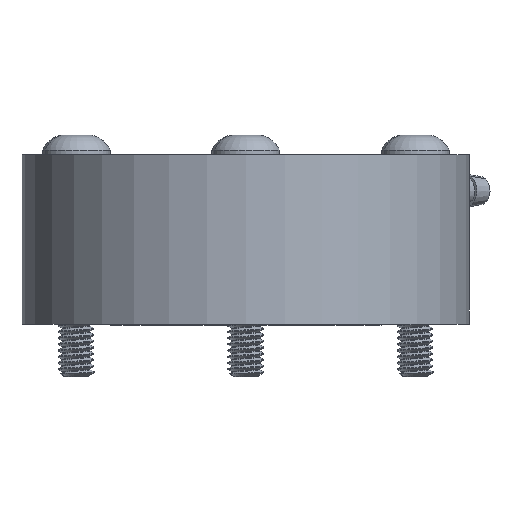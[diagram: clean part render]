
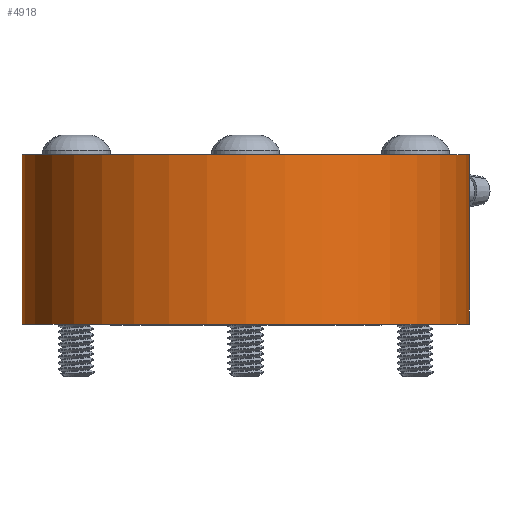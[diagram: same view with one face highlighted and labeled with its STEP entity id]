
A CAD part, front view. The second image highlights one B-rep face of the part: STEP entity #4918.
In plain terms, the highlighted cylindrical face has radius 25.146 mm (diameter 50.292 mm), a partial arc.
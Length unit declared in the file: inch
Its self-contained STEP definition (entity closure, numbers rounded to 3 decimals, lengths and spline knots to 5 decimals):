
#658 = DIRECTION ( 'NONE',  ( 0., 0., 1. ) ) ;
#1029 = DIRECTION ( 'NONE',  ( 1., 0., 0. ) ) ;
#1624 = CIRCLE ( 'NONE', #24684, 0.99 ) ;
#1824 = EDGE_LOOP ( 'NONE', ( #2473, #15691, #28398, #31041 ) ) ;
#2473 = ORIENTED_EDGE ( 'NONE', *, *, #29452, .F. ) ;
#4918 = ADVANCED_FACE ( 'Defeatured_711', ( #32721 ), #27931, .T. ) ;
#5583 = EDGE_CURVE ( 'Defeatured_711+Defeatured_713+Defeatured_713+Defeatured_713', #32514, #11179, #1624, .T. ) ;
#6512 = CARTESIAN_POINT ( 'NONE',  ( 0.99, 0., 0. ) ) ;
#6967 = AXIS2_PLACEMENT_3D ( 'NONE', #17669, #12297, #1029 ) ;
#10875 = CARTESIAN_POINT ( 'NONE',  ( 0.99, 0., 0.75 ) ) ;
#11179 = VERTEX_POINT ( 'NONE', #6512 ) ;
#11471 = DIRECTION ( 'NONE',  ( 0., 0., -1. ) ) ;
#12297 = DIRECTION ( 'NONE',  ( 0., 0., 1. ) ) ;
#14294 = LINE ( 'NONE', #10875, #19674 ) ;
#15691 = ORIENTED_EDGE ( 'NONE', *, *, #28639, .F. ) ;
#16227 = CARTESIAN_POINT ( 'NONE',  ( 0.99, 0., 0.75 ) ) ;
#17202 = CARTESIAN_POINT ( 'NONE',  ( 0., 0., 0.75 ) ) ;
#17669 = CARTESIAN_POINT ( 'NONE',  ( 0., 0., 0.75 ) ) ;
#18834 = CARTESIAN_POINT ( 'NONE',  ( -0.99, 0., 0. ) ) ;
#19674 = VECTOR ( 'NONE', #22796, 39.37008 ) ;
#20302 = VERTEX_POINT ( 'NONE', #16227 ) ;
#20319 = DIRECTION ( 'NONE',  ( -1., 0., 0. ) ) ;
#22796 = DIRECTION ( 'NONE',  ( 0., 0., -1. ) ) ;
#23973 = AXIS2_PLACEMENT_3D ( 'NONE', #17202, #11471, #20319 ) ;
#24684 = AXIS2_PLACEMENT_3D ( 'NONE', #25882, #658, #28744 ) ;
#25882 = CARTESIAN_POINT ( 'NONE',  ( 0., 0., 0. ) ) ;
#26691 = VERTEX_POINT ( 'NONE', #36765 ) ;
#27931 = CYLINDRICAL_SURFACE ( 'NONE', #23973, 0.99 ) ;
#28398 = ORIENTED_EDGE ( 'NONE', *, *, #34386, .T. ) ;
#28639 = EDGE_CURVE ( 'Defeatured_712+Defeatured_711+Defeatured_711+Defeatured_711', #26691, #20302, #33475, .T. ) ;
#28744 = DIRECTION ( 'NONE',  ( 1., 0., 0. ) ) ;
#29452 = EDGE_CURVE ( 'NONE', #20302, #11179, #14294, .T. ) ;
#31041 = ORIENTED_EDGE ( 'NONE', *, *, #5583, .T. ) ;
#32514 = VERTEX_POINT ( 'NONE', #18834 ) ;
#32721 = FACE_OUTER_BOUND ( 'NONE', #1824, .T. ) ;
#32787 = LINE ( 'NONE', #34392, #33686 ) ;
#33475 = CIRCLE ( 'NONE', #6967, 0.99 ) ;
#33686 = VECTOR ( 'NONE', #34752, 39.37008 ) ;
#34386 = EDGE_CURVE ( 'NONE', #26691, #32514, #32787, .T. ) ;
#34392 = CARTESIAN_POINT ( 'NONE',  ( -0.99, 0., 0.75 ) ) ;
#34752 = DIRECTION ( 'NONE',  ( 0., 0., -1. ) ) ;
#36765 = CARTESIAN_POINT ( 'NONE',  ( -0.99, 0., 0.75 ) ) ;
